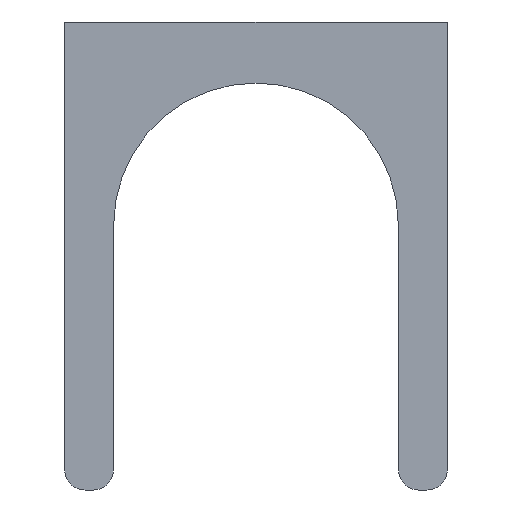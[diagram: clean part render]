
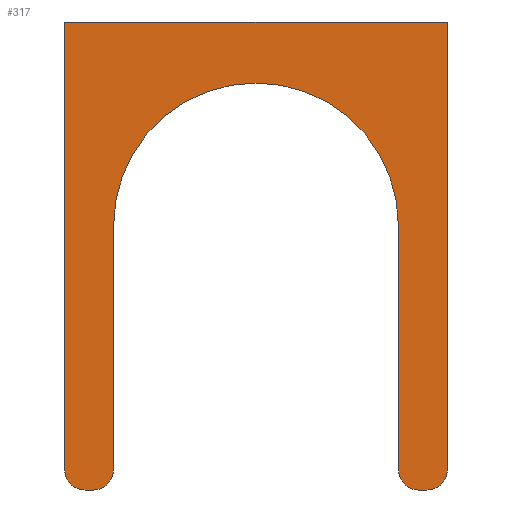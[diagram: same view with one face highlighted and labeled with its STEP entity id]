
A CAD part, front view. The second image highlights one B-rep face of the part: STEP entity #317.
In plain terms, the highlighted planar face has unit normal (0, -1, 0).
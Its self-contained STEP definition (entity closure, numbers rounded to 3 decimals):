
#5 = CIRCLE ( 'NONE', #220, 5. ) ;
#20 = CARTESIAN_POINT ( 'NONE',  ( -35., -5., -52.5 ) ) ;
#24 = DIRECTION ( 'NONE',  ( 0., 1., 0. ) ) ;
#25 = ORIENTED_EDGE ( 'NONE', *, *, #419, .F. ) ;
#33 = CARTESIAN_POINT ( 'NONE',  ( 42., -5., -57.5 ) ) ;
#44 = DIRECTION ( 'NONE',  ( 0., 0., -1. ) ) ;
#45 = CARTESIAN_POINT ( 'NONE',  ( -47., -5., -52.5 ) ) ;
#46 = DIRECTION ( 'NONE',  ( 0., 1., 0. ) ) ;
#51 = CARTESIAN_POINT ( 'NONE',  ( 0., -5., 7.5 ) ) ;
#66 = CARTESIAN_POINT ( 'NONE',  ( 35., -5., -52.5 ) ) ;
#71 = ORIENTED_EDGE ( 'NONE', *, *, #279, .F. ) ;
#74 = EDGE_CURVE ( 'NONE', #267, #442, #5, .T. ) ;
#83 = DIRECTION ( 'NONE',  ( 1., 0., 0. ) ) ;
#84 = LINE ( 'NONE', #245, #98 ) ;
#98 = VECTOR ( 'NONE', #324, 1000. ) ;
#116 = VECTOR ( 'NONE', #163, 1000. ) ;
#118 = CARTESIAN_POINT ( 'NONE',  ( 35., -5., -52.5 ) ) ;
#119 = ORIENTED_EDGE ( 'NONE', *, *, #74, .F. ) ;
#123 = DIRECTION ( 'NONE',  ( 0., -1., 0. ) ) ;
#125 = LINE ( 'NONE', #542, #166 ) ;
#131 = DIRECTION ( 'NONE',  ( 0., 0., 1. ) ) ;
#141 = AXIS2_PLACEMENT_3D ( 'NONE', #338, #431, #131 ) ;
#142 = DIRECTION ( 'NONE',  ( 0., 0., 1. ) ) ;
#146 = ORIENTED_EDGE ( 'NONE', *, *, #207, .F. ) ;
#148 = VERTEX_POINT ( 'NONE', #204 ) ;
#149 = LINE ( 'NONE', #118, #187 ) ;
#151 = EDGE_CURVE ( 'NONE', #354, #449, #332, .T. ) ;
#154 = ORIENTED_EDGE ( 'NONE', *, *, #395, .F. ) ;
#161 = CARTESIAN_POINT ( 'NONE',  ( 0., -5., 7.5 ) ) ;
#163 = DIRECTION ( 'NONE',  ( -1., 0., 0. ) ) ;
#166 = VECTOR ( 'NONE', #410, 1000. ) ;
#168 = EDGE_CURVE ( 'NONE', #449, #172, #211, .T. ) ;
#172 = VERTEX_POINT ( 'NONE', #45 ) ;
#180 = CIRCLE ( 'NONE', #400, 5. ) ;
#185 = FACE_OUTER_BOUND ( 'NONE', #498, .T. ) ;
#186 = VERTEX_POINT ( 'NONE', #257 ) ;
#187 = VECTOR ( 'NONE', #276, 1000. ) ;
#188 = ORIENTED_EDGE ( 'NONE', *, *, #532, .F. ) ;
#192 = CARTESIAN_POINT ( 'NONE',  ( -40., -5., -57.5 ) ) ;
#202 = CARTESIAN_POINT ( 'NONE',  ( 42., -5., -52.5 ) ) ;
#204 = CARTESIAN_POINT ( 'NONE',  ( -47., -5., 57.5 ) ) ;
#206 = DIRECTION ( 'NONE',  ( 0., 0., 1. ) ) ;
#207 = EDGE_CURVE ( 'NONE', #407, #403, #221, .T. ) ;
#211 = CIRCLE ( 'NONE', #466, 5. ) ;
#220 = AXIS2_PLACEMENT_3D ( 'NONE', #202, #295, #44 ) ;
#221 = CIRCLE ( 'NONE', #141, 5. ) ;
#234 = CARTESIAN_POINT ( 'NONE',  ( 47., -5., 57.5 ) ) ;
#235 = VERTEX_POINT ( 'NONE', #390 ) ;
#245 = CARTESIAN_POINT ( 'NONE',  ( 47., -5., -52.5 ) ) ;
#252 = CARTESIAN_POINT ( 'NONE',  ( -42., -5., -52.5 ) ) ;
#253 = DIRECTION ( 'NONE',  ( 0., -1., 0. ) ) ;
#257 = CARTESIAN_POINT ( 'NONE',  ( -35., -5., 7.5 ) ) ;
#258 = AXIS2_PLACEMENT_3D ( 'NONE', #51, #253, #293 ) ;
#264 = CARTESIAN_POINT ( 'NONE',  ( -42., -5., -57.5 ) ) ;
#267 = VERTEX_POINT ( 'NONE', #296 ) ;
#269 = ORIENTED_EDGE ( 'NONE', *, *, #377, .F. ) ;
#276 = DIRECTION ( 'NONE',  ( 0., 0., 1. ) ) ;
#279 = EDGE_CURVE ( 'NONE', #493, #235, #485, .T. ) ;
#287 = CARTESIAN_POINT ( 'NONE',  ( -47., -5., 57.5 ) ) ;
#289 = CARTESIAN_POINT ( 'NONE',  ( 42., -5., -57.5 ) ) ;
#293 = DIRECTION ( 'NONE',  ( 0., 0., 1. ) ) ;
#295 = DIRECTION ( 'NONE',  ( 0., 1., 0. ) ) ;
#296 = CARTESIAN_POINT ( 'NONE',  ( 47., -5., -52.5 ) ) ;
#308 = DIRECTION ( 'NONE',  ( 0., 0., -1. ) ) ;
#317 = ADVANCED_FACE ( 'NONE', ( #185 ), #526, .F. ) ;
#324 = DIRECTION ( 'NONE',  ( 0., 0., -1. ) ) ;
#327 = AXIS2_PLACEMENT_3D ( 'NONE', #161, #123, #458 ) ;
#328 = AXIS2_PLACEMENT_3D ( 'NONE', #349, #24, #142 ) ;
#332 = LINE ( 'NONE', #378, #383 ) ;
#338 = CARTESIAN_POINT ( 'NONE',  ( 40., -5., -52.5 ) ) ;
#349 = CARTESIAN_POINT ( 'NONE',  ( -42., -5., -52.5 ) ) ;
#350 = ORIENTED_EDGE ( 'NONE', *, *, #168, .F. ) ;
#352 = VECTOR ( 'NONE', #483, 1000. ) ;
#354 = VERTEX_POINT ( 'NONE', #192 ) ;
#355 = ORIENTED_EDGE ( 'NONE', *, *, #482, .F. ) ;
#356 = CARTESIAN_POINT ( 'NONE',  ( -40., -5., -52.5 ) ) ;
#360 = ORIENTED_EDGE ( 'NONE', *, *, #544, .F. ) ;
#377 = EDGE_CURVE ( 'NONE', #186, #538, #530, .T. ) ;
#378 = CARTESIAN_POINT ( 'NONE',  ( -42., -5., -57.5 ) ) ;
#383 = VECTOR ( 'NONE', #508, 1000. ) ;
#390 = CARTESIAN_POINT ( 'NONE',  ( 0., -5., 42.5 ) ) ;
#395 = EDGE_CURVE ( 'NONE', #403, #493, #149, .T. ) ;
#400 = AXIS2_PLACEMENT_3D ( 'NONE', #356, #409, #308 ) ;
#403 = VERTEX_POINT ( 'NONE', #66 ) ;
#407 = VERTEX_POINT ( 'NONE', #434 ) ;
#408 = VERTEX_POINT ( 'NONE', #234 ) ;
#409 = DIRECTION ( 'NONE',  ( 0., 1., 0. ) ) ;
#410 = DIRECTION ( 'NONE',  ( 0., 0., 1. ) ) ;
#415 = LINE ( 'NONE', #289, #116 ) ;
#418 = LINE ( 'NONE', #287, #420 ) ;
#419 = EDGE_CURVE ( 'NONE', #538, #354, #180, .T. ) ;
#420 = VECTOR ( 'NONE', #83, 1000. ) ;
#431 = DIRECTION ( 'NONE',  ( 0., 1., 0. ) ) ;
#434 = CARTESIAN_POINT ( 'NONE',  ( 40., -5., -57.5 ) ) ;
#442 = VERTEX_POINT ( 'NONE', #33 ) ;
#449 = VERTEX_POINT ( 'NONE', #264 ) ;
#452 = ORIENTED_EDGE ( 'NONE', *, *, #504, .F. ) ;
#458 = DIRECTION ( 'NONE',  ( 0., 0., 1. ) ) ;
#466 = AXIS2_PLACEMENT_3D ( 'NONE', #252, #46, #206 ) ;
#479 = ORIENTED_EDGE ( 'NONE', *, *, #151, .F. ) ;
#482 = EDGE_CURVE ( 'NONE', #148, #408, #418, .T. ) ;
#483 = DIRECTION ( 'NONE',  ( 0., 0., -1. ) ) ;
#485 = CIRCLE ( 'NONE', #258, 35. ) ;
#493 = VERTEX_POINT ( 'NONE', #499 ) ;
#498 = EDGE_LOOP ( 'NONE', ( #360, #355, #452, #350, #479, #25, #269, #188, #71, #154, #146, #533, #119 ) ) ;
#499 = CARTESIAN_POINT ( 'NONE',  ( 35., -5., 7.5 ) ) ;
#504 = EDGE_CURVE ( 'NONE', #172, #148, #125, .T. ) ;
#506 = CARTESIAN_POINT ( 'NONE',  ( -35., -5., -52.5 ) ) ;
#508 = DIRECTION ( 'NONE',  ( -1., 0., 0. ) ) ;
#514 = EDGE_CURVE ( 'NONE', #442, #407, #415, .T. ) ;
#522 = CIRCLE ( 'NONE', #327, 35. ) ;
#526 = PLANE ( 'NONE',  #328 ) ;
#530 = LINE ( 'NONE', #20, #352 ) ;
#532 = EDGE_CURVE ( 'NONE', #235, #186, #522, .T. ) ;
#533 = ORIENTED_EDGE ( 'NONE', *, *, #514, .F. ) ;
#538 = VERTEX_POINT ( 'NONE', #506 ) ;
#542 = CARTESIAN_POINT ( 'NONE',  ( -47., -5., -52.5 ) ) ;
#544 = EDGE_CURVE ( 'NONE', #408, #267, #84, .T. ) ;
